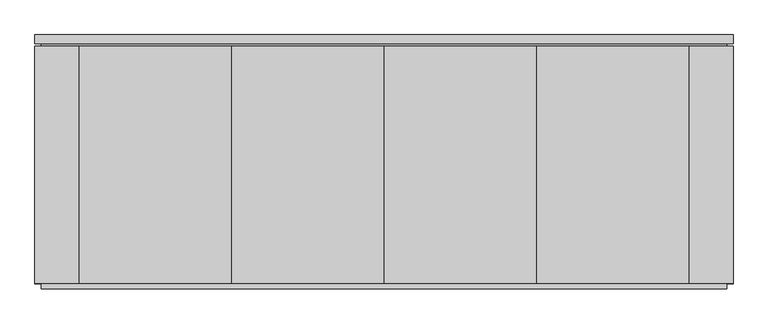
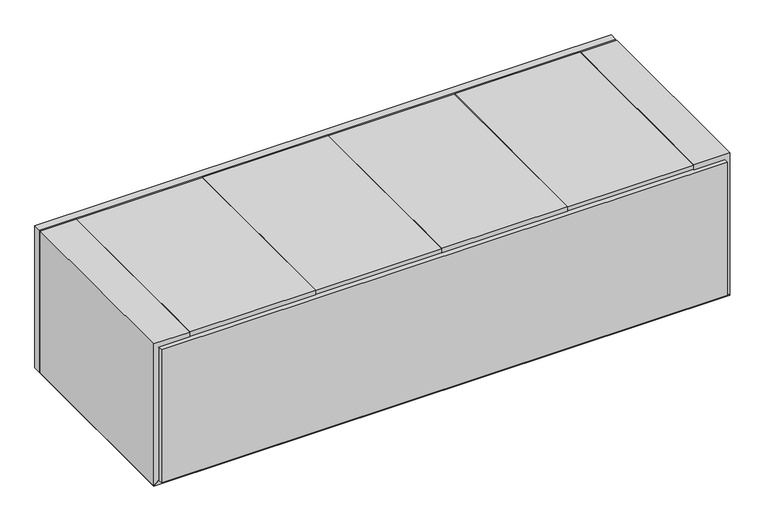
"""IFC4 building model written with IfcOpenShell, lengths in millimetres: proxy geometry, BASYS^CREDENZA 2_4 DOORS ROUND ENDS-PARTS SOLID."""

from ifc_helpers import new_model, si_unit, frame, origin, place, context, project, spatial, polyline, outline, extrude, faceted_brep, source, transform, mapped, element, save


def generic_models_d2e6d8cc(model_context):
    return source(origin(), model_context, "Body", "SolidModel", [
        extrude(outline(polyline([(2283.61875, -9.525), (2283.61875, -839.7875), (1753.1953125, -839.7875), (1753.1953125, -9.525), (2283.61875, -9.525)])), frame((0.0, 0.0, -19.05), z_axis=(0.0, 0.0, 1.0), x_axis=(1.0, 0.0, 0.0)), (0.0, 0.0, 1.0), 19.05),
        extrude(outline(polyline([(1750.8140625, -9.525), (1750.8140625, -839.7875), (1220.390625, -839.7875), (1220.390625, -9.525), (1750.8140625, -9.525)])), frame((0.0, 0.0, -19.05), z_axis=(0.0, 0.0, 1.0), x_axis=(1.0, 0.0, 0.0)), (0.0, 0.0, 1.0), 19.05),
        extrude(outline(polyline([(22.225, 0.0), (2416.175, 0.0), (2416.175, -28.575), (22.225, -28.575), (22.225, 0.0)])), frame((0.0, 0.0, -615.95), z_axis=(0.0, 0.0, 1.0), x_axis=(1.0, 0.0, 0.0)), (0.0, 0.0, 1.0), 593.725),
        extrude(outline(polyline([(0.0, 2286.0), (-504.3714286, 2286.0), (-635.0, 2438.4), (0.0, 2438.4), (0.0, 2286.0)])), frame((0.0, -839.7875, 0.0), z_axis=(0.0, 1.0, 0.0), x_axis=(0.0, 0.0, 1.0)), (0.0, 0.0, 1.0), 830.2625),
        extrude(outline(polyline([(-635.0, 2438.4), (-615.95, 2416.175), (-615.95, 22.225), (-635.0, 0.0), (-635.0, 2438.4)])), frame((0.0, -839.7875, 0.0), z_axis=(0.0, 1.0, 0.0), x_axis=(0.0, 0.0, 1.0)), (0.0, 0.0, 1.0), 830.2625),
        extrude(outline(polyline([(685.2046875, -9.525), (685.2046875, -839.7875), (154.78125, -839.7875), (154.78125, -9.525), (685.2046875, -9.525)])), frame((0.0, 0.0, -19.05), z_axis=(0.0, 0.0, 1.0), x_axis=(1.0, 0.0, 0.0)), (0.0, 0.0, 1.0), 19.05),
        extrude(outline(polyline([(1218.009375, -9.525), (1218.009375, -839.7875), (687.5859375, -839.7875), (687.5859375, -9.525), (1218.009375, -9.525)])), frame((0.0, 0.0, -19.05), z_axis=(0.0, 0.0, 1.0), x_axis=(1.0, 0.0, 0.0)), (0.0, 0.0, 1.0), 19.05),
        extrude(outline(polyline([(2438.4, 0.0), (0.0, 0.0), (0.0, 30.1625), (2438.4, 30.1625), (2438.4, 0.0)])), frame((0.0, 0.0, -635.0), z_axis=(0.0, 0.0, 1.0), x_axis=(1.0, 0.0, 0.0)), (0.0, 0.0, 1.0), 635.0),
        faceted_brep([(2416.175, -858.8375, -22.225), (22.225, -858.8375, -22.225), (22.225, -858.8375, -615.95), (2416.175, -858.8375, -615.95), (2416.175, -9.525, -22.225), (152.4, -9.525, -22.225), (152.4, -839.7875, -22.225), (22.225, -839.7875, -22.225), (22.225, -839.7875, -615.95), (152.4, -839.7875, 0.0), (0.0, -839.7875, 0.0), (0.0, -839.7875, -635.0), (0.0, -9.525, -635.0), (0.0, -9.525, 0.0), (152.4, -9.525, 0.0), (2416.175, -9.525, -615.95), (22.225, -9.525, -615.95)], [[[0, 1, 2, 3]], [[1, 0, 4, 5, 6, 7]], [[1, 7, 8, 2]], [[7, 6, 9, 10, 11, 8]], [[12, 13, 14, 5, 4, 15, 16]], [[10, 9, 14, 13]], [[10, 13, 12, 11]], [[4, 0, 3, 15]], [[15, 3, 2, 8, 16]], [[12, 16, 8, 11]], [[5, 14, 9, 6]]]),
    ])


if __name__ == "__main__":
    model = new_model("IFC4")
    model_context = context("Model", 3, world=origin())
    ifc_project = project(units=[si_unit("LENGTHUNIT", "METRE", prefix="MILLI")], contexts=[model_context])
    site = spatial("IfcSite", under=ifc_project)
    building = spatial("IfcBuilding", under=site)
    placement = place(None, origin())
    generic_models_shape = generic_models_d2e6d8cc(model_context)
    element("IfcBuildingElementProxy", 1, Name="BASYS^CREDENZA 2_4 DOORS ROUND ENDS-PARTS SOLID", ObjectType="BASYS^CREDENZA 2_4 DOORS ROUND ENDS-PARTS SOLID", at=placement, inside=building, context=model_context, shape_type="MappedRepresentation", body=[
        mapped(generic_models_shape, transform((0.0, 0.0, 0.0), x_axis=(1.0, 0.0, 0.0), y_axis=(0.0, 1.0, 0.0), z_axis=(0.0, 0.0, 1.0))),
    ])
    save(model, "model.ifc")
